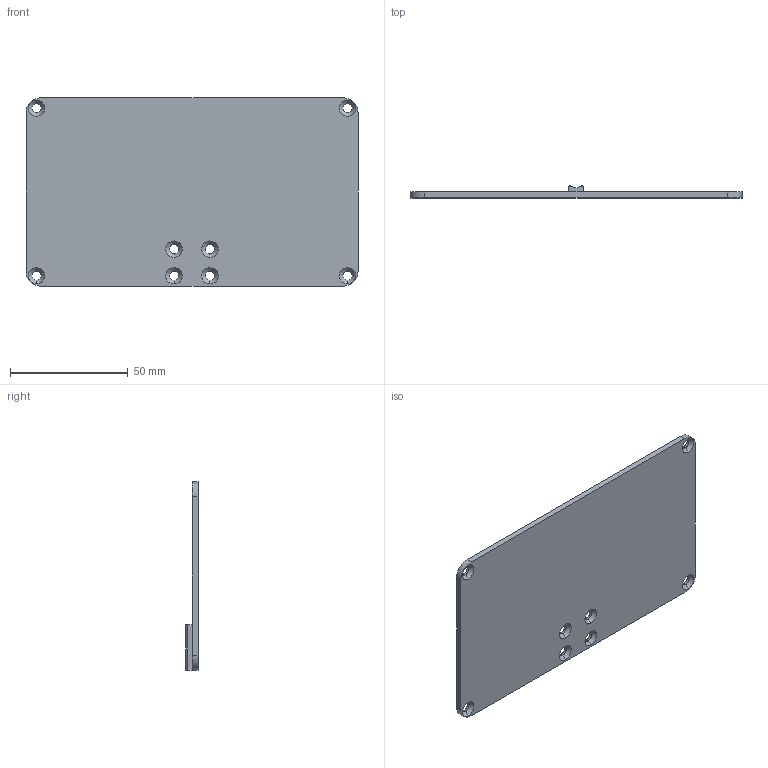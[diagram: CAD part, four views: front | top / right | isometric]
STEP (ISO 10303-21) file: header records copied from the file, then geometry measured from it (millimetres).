
FILE_DESCRIPTION (( 'STEP AP214' ), '1' );
FILE_NAME ('VikiEnclosureBottom.STP', '2015-11-09T16:32:38', ( '' ), ( '' ), 'SwSTEP 2.0', 'SolidWorks 2014', '' );
FILE_SCHEMA (( 'AUTOMOTIVE_DESIGN' ));
Length unit declared in the file: inch
Products named in the file (1): VikiEnclosureBottom
Bounding box: 140.97 x 5.21 x 80.01 mm (x, y, z)
Volume: 28450.6 mm3; surface area: 23703.6 mm2
Topology: 1 solids, 1 shells, 48 faces, 122 edges, 76 vertices
Faces by surface type: cylinder 23, cone 16, plane 9
Entity records: 1532 total; most frequent: DIRECTION 282, CARTESIAN_POINT 247, ORIENTED_EDGE 244, EDGE_CURVE 122, AXIS2_PLACEMENT_3D 111, VERTEX_POINT 76, EDGE_LOOP 64, CIRCLE 62
